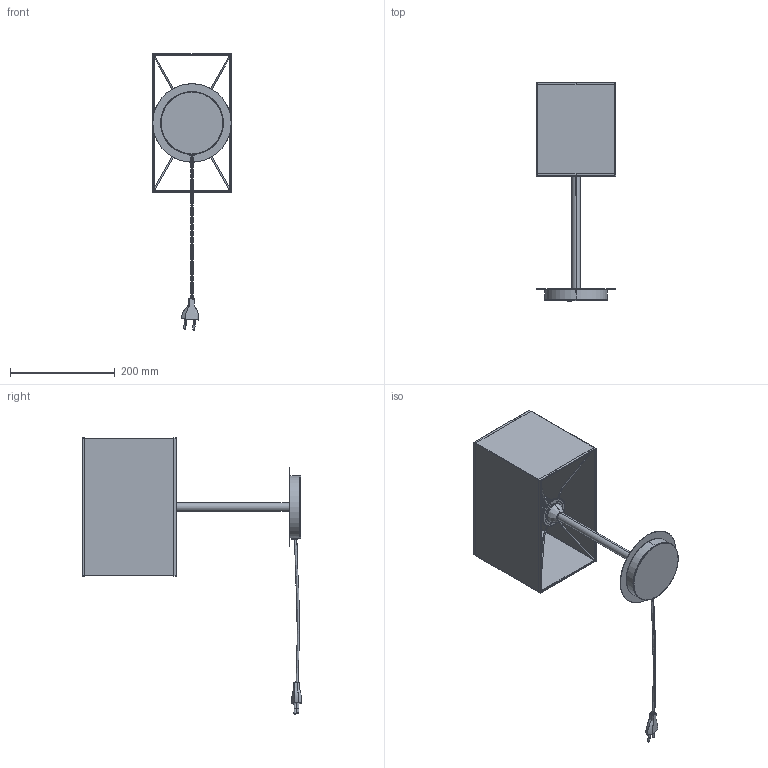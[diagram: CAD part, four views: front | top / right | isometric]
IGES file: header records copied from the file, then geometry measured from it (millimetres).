
Start section: SolidWorks IGES file using analytic representation for surfaces
Global section: file name: E:\3D lampy\Hotel\Hotel_5476.IGS; native system: SolidWorks 2016; preprocessor: SolidWorks 2016; author: Asia; date: 170929.125958; units: millimetre
Bounding box: 151.37 x 419.65 x 528.62 mm (x, y, z)
Surface area: 457252.2 mm2 (no closed solid volume)
Topology: 0 solids, 0 shells, 409 faces, 6141 edges, 6113 vertices
Faces by surface type: bspline 236, revolution 173
